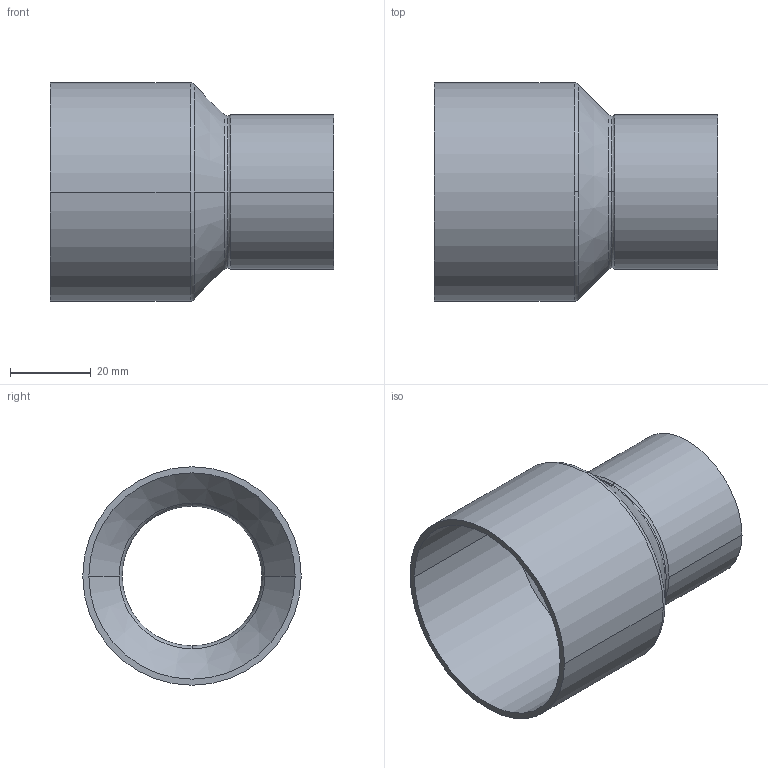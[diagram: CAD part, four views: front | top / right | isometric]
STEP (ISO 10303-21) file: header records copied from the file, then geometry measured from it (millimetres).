
FILE_DESCRIPTION((''),'2;1');
FILE_NAME('G:\Technics\CAD\Bauteile\Serie 15243\152435435.stp','2005-10-21T12:49:46',('boden'),(''),'Autodesk Inventor 8','Autodesk Inventor 8','');
FILE_SCHEMA(('AUTOMOTIVE_DESIGN { 1 0 10303 214 1 1 1 1 }'));
Length unit declared in the file: millimetre
Products named in the file (1): 152435435
Bounding box: 70 x 54 x 54 mm (x, y, z)
Volume: 15686.2 mm3; surface area: 21336.2 mm2
Topology: 1 solids, 1 shells, 24 faces, 60 edges, 38 vertices
Faces by surface type: cylinder 8, torus 6, bspline 4, cone 4, plane 2
Entity records: 931 total; most frequent: CARTESIAN_POINT 299, DIRECTION 150, ORIENTED_EDGE 120, AXIS2_PLACEMENT_3D 69, EDGE_CURVE 60, CIRCLE 48, VERTEX_POINT 38, EDGE_LOOP 26
